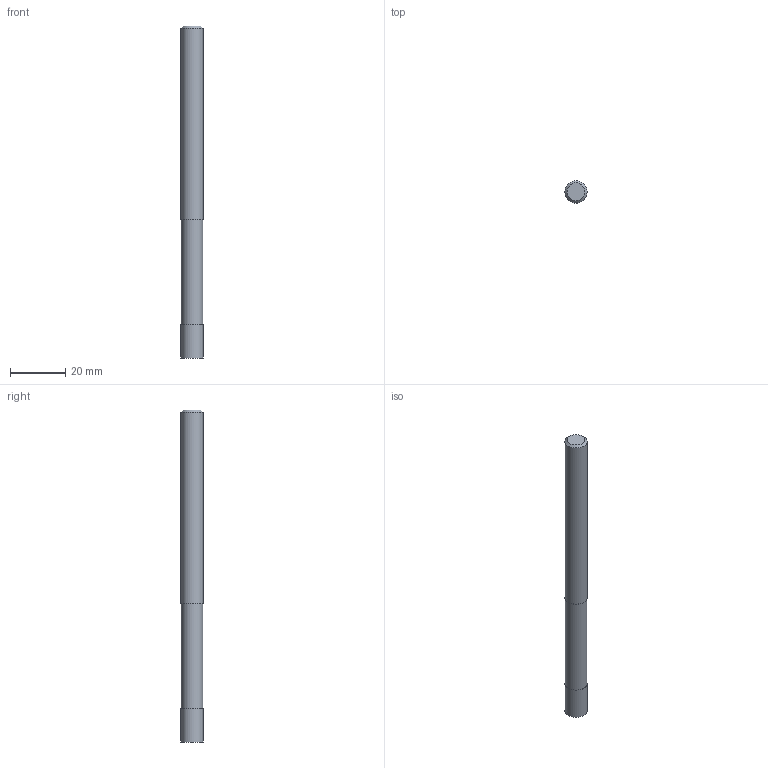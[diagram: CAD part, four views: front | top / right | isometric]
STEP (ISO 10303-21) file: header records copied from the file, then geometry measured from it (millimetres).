
FILE_DESCRIPTION((''),'2;1');
FILE_NAME('C:\Users\nsx150\AppData\Local\Temp\Mastercam 2021\17T8Q8S9EB\TEMP.step','2021-04-21T16:16:42',(''),(''),'STEP Write','Mastercam 2021 ... CNC Software, Inc.','');
FILE_SCHEMA(('AUTOMOTIVE_DESIGN'));
Length unit declared in the file: millimetre
Products named in the file (1): None
Bounding box: 8 x 8 x 120 mm (x, y, z)
Volume: 5930 mm3; surface area: 3180.5 mm2
Topology: 2 solids, 2 shells, 9 faces, 11 edges, 7 vertices
Faces by surface type: plane 5, cylinder 3, cone 1
Full cylindrical faces by diameter (mm): 7.8 x1, 8 x2
Entity records: 211 total; most frequent: DIRECTION 36, CARTESIAN_POINT 25, AXIS2_PLACEMENT_3D 18, ORIENTED_EDGE 14, EDGE_LOOP 14, STYLED_ITEM 12, ADVANCED_FACE 9, FACE_BOUND 8
